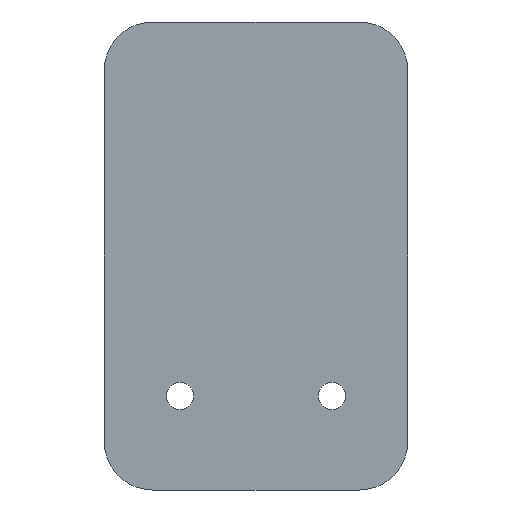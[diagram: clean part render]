
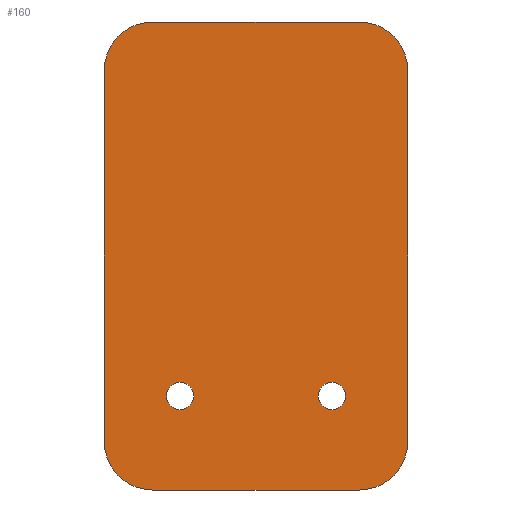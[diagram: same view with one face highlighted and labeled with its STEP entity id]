
A CAD part, front view. The second image highlights one B-rep face of the part: STEP entity #160.
In plain terms, the highlighted planar face has unit normal (0, -1, 0).
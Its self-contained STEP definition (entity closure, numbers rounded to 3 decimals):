
#6 = CARTESIAN_POINT ( 'NONE',  ( -25., 238., 43.168 ) ) ;
#9 = EDGE_CURVE ( 'NONE', #52, #99, #344, .T. ) ;
#11 = VERTEX_POINT ( 'NONE', #175 ) ;
#13 = VERTEX_POINT ( 'NONE', #288 ) ;
#14 = DIRECTION ( 'NONE',  ( 0., 1., 0. ) ) ;
#16 = VECTOR ( 'NONE', #141, 1000. ) ;
#20 = CARTESIAN_POINT ( 'NONE',  ( -25., 238., 51.168 ) ) ;
#21 = EDGE_CURVE ( 'NONE', #172, #172, #199, .T. ) ;
#24 = VECTOR ( 'NONE', #279, 1000. ) ;
#27 = CARTESIAN_POINT ( 'NONE',  ( 25., 238., 22. ) ) ;
#29 = AXIS2_PLACEMENT_3D ( 'NONE', #377, #14, #133 ) ;
#36 = ORIENTED_EDGE ( 'NONE', *, *, #123, .T. ) ;
#37 = LINE ( 'NONE', #153, #24 ) ;
#52 = VERTEX_POINT ( 'NONE', #205 ) ;
#53 = DIRECTION ( 'NONE',  ( 0., 0., -1. ) ) ;
#58 = DIRECTION ( 'NONE',  ( 0., 0., -1. ) ) ;
#60 = EDGE_CURVE ( 'NONE', #323, #99, #261, .T. ) ;
#61 = PLANE ( 'NONE',  #321 ) ;
#65 = EDGE_CURVE ( 'NONE', #189, #224, #166, .T. ) ;
#66 = CARTESIAN_POINT ( 'NONE',  ( -12.5, 238., -10.418 ) ) ;
#80 = ORIENTED_EDGE ( 'NONE', *, *, #21, .T. ) ;
#93 = DIRECTION ( 'NONE',  ( 0., -1., 0. ) ) ;
#94 = FACE_OUTER_BOUND ( 'NONE', #318, .T. ) ;
#98 = DIRECTION ( 'NONE',  ( 0., 1., 0. ) ) ;
#99 = VERTEX_POINT ( 'NONE', #263 ) ;
#103 = CIRCLE ( 'NONE', #125, 8. ) ;
#110 = ORIENTED_EDGE ( 'NONE', *, *, #272, .T. ) ;
#112 = DIRECTION ( 'NONE',  ( 0., 0., -1. ) ) ;
#119 = DIRECTION ( 'NONE',  ( 0., 0., -1. ) ) ;
#123 = EDGE_CURVE ( 'NONE', #323, #11, #103, .T. ) ;
#125 = AXIS2_PLACEMENT_3D ( 'NONE', #264, #177, #302 ) ;
#130 = ORIENTED_EDGE ( 'NONE', *, *, #326, .F. ) ;
#133 = DIRECTION ( 'NONE',  ( 0., 0., -1. ) ) ;
#136 = VERTEX_POINT ( 'NONE', #394 ) ;
#137 = ORIENTED_EDGE ( 'NONE', *, *, #229, .T. ) ;
#141 = DIRECTION ( 'NONE',  ( 1., 0., 0. ) ) ;
#144 = DIRECTION ( 'NONE',  ( 0., 0., -1. ) ) ;
#152 = CIRCLE ( 'NONE', #379, 2.25 ) ;
#153 = CARTESIAN_POINT ( 'NONE',  ( -25., 238., -25.918 ) ) ;
#156 = AXIS2_PLACEMENT_3D ( 'NONE', #271, #308, #188 ) ;
#160 = ADVANCED_FACE ( 'NONE', ( #94, #337, #332 ), #61, .T. ) ;
#166 = CIRCLE ( 'NONE', #392, 8. ) ;
#171 = EDGE_LOOP ( 'NONE', ( #286 ) ) ;
#172 = VERTEX_POINT ( 'NONE', #246 ) ;
#175 = CARTESIAN_POINT ( 'NONE',  ( 17., 238., 51.168 ) ) ;
#177 = DIRECTION ( 'NONE',  ( 0., -1., 0. ) ) ;
#183 = CARTESIAN_POINT ( 'NONE',  ( -17., 238., -25.918 ) ) ;
#188 = DIRECTION ( 'NONE',  ( 0., 0., -1. ) ) ;
#189 = VERTEX_POINT ( 'NONE', #333 ) ;
#199 = CIRCLE ( 'NONE', #29, 2.25 ) ;
#201 = LINE ( 'NONE', #324, #393 ) ;
#202 = LINE ( 'NONE', #20, #16 ) ;
#203 = EDGE_CURVE ( 'NONE', #13, #13, #152, .T. ) ;
#205 = CARTESIAN_POINT ( 'NONE',  ( 17., 238., -25.918 ) ) ;
#207 = ORIENTED_EDGE ( 'NONE', *, *, #376, .T. ) ;
#224 = VERTEX_POINT ( 'NONE', #183 ) ;
#225 = ORIENTED_EDGE ( 'NONE', *, *, #65, .T. ) ;
#229 = EDGE_CURVE ( 'NONE', #136, #278, #329, .T. ) ;
#246 = CARTESIAN_POINT ( 'NONE',  ( 12.5, 238., -12.668 ) ) ;
#252 = CARTESIAN_POINT ( 'NONE',  ( 17., 238., -17.918 ) ) ;
#257 = EDGE_LOOP ( 'NONE', ( #80 ) ) ;
#261 = LINE ( 'NONE', #27, #335 ) ;
#263 = CARTESIAN_POINT ( 'NONE',  ( 25., 238., -17.918 ) ) ;
#264 = CARTESIAN_POINT ( 'NONE',  ( 17., 238., 43.168 ) ) ;
#270 = CARTESIAN_POINT ( 'NONE',  ( -17., 238., -17.918 ) ) ;
#271 = CARTESIAN_POINT ( 'NONE',  ( -17., 238., 43.168 ) ) ;
#272 = EDGE_CURVE ( 'NONE', #224, #52, #37, .T. ) ;
#278 = VERTEX_POINT ( 'NONE', #6 ) ;
#279 = DIRECTION ( 'NONE',  ( 1., 0., 0. ) ) ;
#286 = ORIENTED_EDGE ( 'NONE', *, *, #203, .T. ) ;
#288 = CARTESIAN_POINT ( 'NONE',  ( -12.5, 238., -12.668 ) ) ;
#302 = DIRECTION ( 'NONE',  ( 0., 0., -1. ) ) ;
#308 = DIRECTION ( 'NONE',  ( 0., -1., 0. ) ) ;
#315 = DIRECTION ( 'NONE',  ( 0., 0., -1. ) ) ;
#318 = EDGE_LOOP ( 'NONE', ( #327, #36, #130, #137, #207, #225, #110, #383 ) ) ;
#321 = AXIS2_PLACEMENT_3D ( 'NONE', #366, #93, #119 ) ;
#323 = VERTEX_POINT ( 'NONE', #345 ) ;
#324 = CARTESIAN_POINT ( 'NONE',  ( -25., 238., 22. ) ) ;
#326 = EDGE_CURVE ( 'NONE', #136, #11, #202, .T. ) ;
#327 = ORIENTED_EDGE ( 'NONE', *, *, #60, .F. ) ;
#329 = CIRCLE ( 'NONE', #156, 8. ) ;
#332 = FACE_BOUND ( 'NONE', #257, .T. ) ;
#333 = CARTESIAN_POINT ( 'NONE',  ( -25., 238., -17.918 ) ) ;
#335 = VECTOR ( 'NONE', #144, 1000. ) ;
#337 = FACE_BOUND ( 'NONE', #171, .T. ) ;
#344 = CIRCLE ( 'NONE', #364, 8. ) ;
#345 = CARTESIAN_POINT ( 'NONE',  ( 25., 238., 43.168 ) ) ;
#363 = DIRECTION ( 'NONE',  ( 0., -1., 0. ) ) ;
#364 = AXIS2_PLACEMENT_3D ( 'NONE', #252, #385, #112 ) ;
#366 = CARTESIAN_POINT ( 'NONE',  ( -25., 238., 22. ) ) ;
#376 = EDGE_CURVE ( 'NONE', #278, #189, #201, .T. ) ;
#377 = CARTESIAN_POINT ( 'NONE',  ( 12.5, 238., -10.418 ) ) ;
#379 = AXIS2_PLACEMENT_3D ( 'NONE', #66, #98, #315 ) ;
#383 = ORIENTED_EDGE ( 'NONE', *, *, #9, .T. ) ;
#385 = DIRECTION ( 'NONE',  ( 0., -1., 0. ) ) ;
#392 = AXIS2_PLACEMENT_3D ( 'NONE', #270, #363, #58 ) ;
#393 = VECTOR ( 'NONE', #53, 1000. ) ;
#394 = CARTESIAN_POINT ( 'NONE',  ( -17., 238., 51.168 ) ) ;
